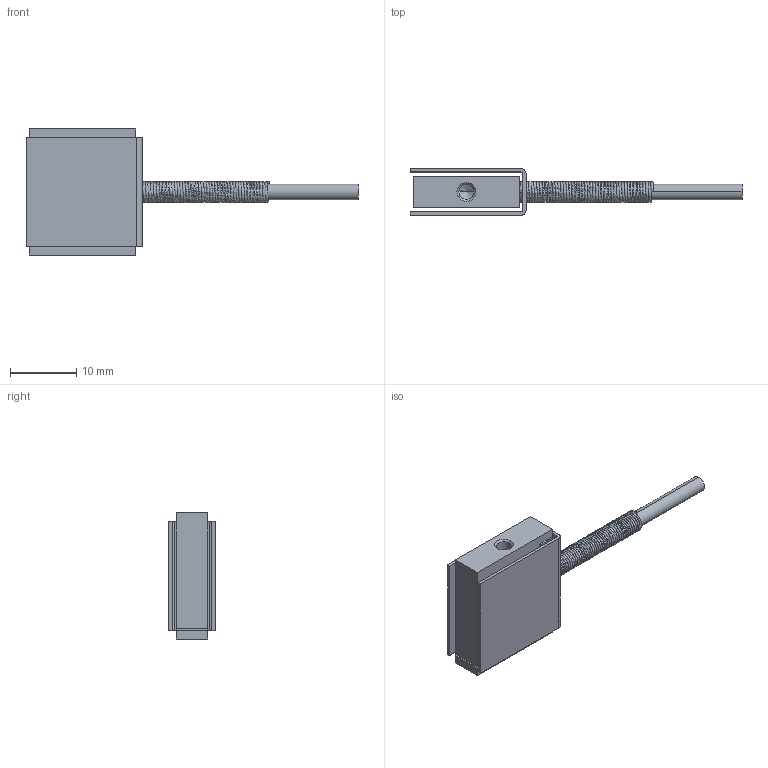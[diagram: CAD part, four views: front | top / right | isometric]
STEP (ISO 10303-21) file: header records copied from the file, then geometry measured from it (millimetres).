
FILE_DESCRIPTION (( 'STEP AP203' ), '1' );
FILE_NAME ('KM019.STEP', '2025-01-23T09:39:20', ( '' ), ( '' ), 'SwSTEP 2.0', 'SolidWorks 2024', '' );
FILE_SCHEMA (( 'CONFIG_CONTROL_DESIGN' ));
Length unit declared in the file: millimetre
Products named in the file (1): KM019
Bounding box: 50 x 7 x 19 mm (x, y, z)
Volume: 1876.2 mm3; surface area: 3718.8 mm2
Topology: 4 solids, 4 shells, 70 faces, 176 edges, 111 vertices
Faces by surface type: plane 44, cylinder 14, cone 10, bspline 2
Entity records: 20571 total; most frequent: CARTESIAN_POINT 18836, ORIENTED_EDGE 340, DIRECTION 334, EDGE_CURVE 170, LINE 132, VECTOR 132, VERTEX_POINT 111, AXIS2_PLACEMENT_3D 101
